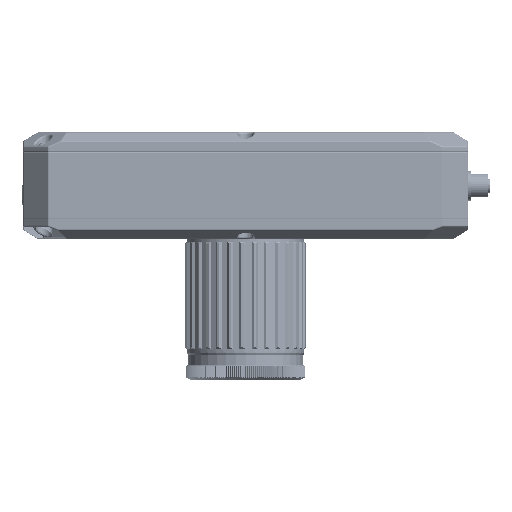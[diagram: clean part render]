
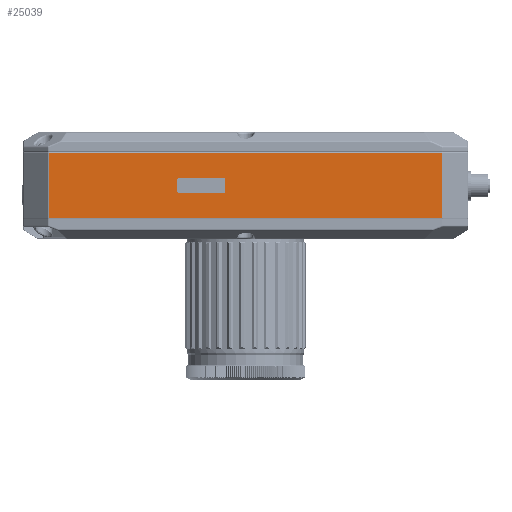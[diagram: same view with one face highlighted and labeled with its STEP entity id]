
A CAD part, front view. The second image highlights one B-rep face of the part: STEP entity #25039.
In plain terms, the highlighted planar face has unit normal (0, -1, 0).
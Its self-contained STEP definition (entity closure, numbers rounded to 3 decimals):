
#10063=DIRECTION('',(0.,0.,-1.));
#10064=VECTOR('',#10063,6.3);
#10065=CARTESIAN_POINT('',(-38.3,-71.,3.15));
#10066=LINE('',#10065,#10064);
#10070=DIRECTION('',(1.,0.,0.));
#10071=VECTOR('',#10070,25.);
#10072=CARTESIAN_POINT('',(-37.3,-71.,-4.15));
#10073=LINE('',#10072,#10071);
#10077=DIRECTION('',(0.,0.,1.));
#10078=VECTOR('',#10077,6.3);
#10079=CARTESIAN_POINT('',(-11.3,-71.,-3.15));
#10080=LINE('',#10079,#10078);
#10084=DIRECTION('',(-1.,0.,0.));
#10085=VECTOR('',#10084,25.);
#10086=CARTESIAN_POINT('',(-12.3,-71.,4.15));
#10087=LINE('',#10086,#10085);
#10091=DIRECTION('',(-1.,0.,0.));
#10092=VECTOR('',#10091,220.772);
#10093=CARTESIAN_POINT('',(110.386,-71.,-18.4));
#10094=LINE('',#10093,#10092);
#10098=DIRECTION('',(0.,0.,-1.));
#10099=VECTOR('',#10098,36.8);
#10100=CARTESIAN_POINT('',(-110.386,-71.,18.4));
#10101=LINE('',#10100,#10099);
#10105=DIRECTION('',(1.,0.,0.));
#10106=VECTOR('',#10105,220.772);
#10107=CARTESIAN_POINT('',(-110.386,-71.,18.4));
#10108=LINE('',#10107,#10106);
#10112=DIRECTION('',(0.,0.,1.));
#10113=VECTOR('',#10112,36.8);
#10114=CARTESIAN_POINT('',(110.386,-71.,-18.4));
#10115=LINE('',#10114,#10113);
#10133=CARTESIAN_POINT('',(-37.3,-71.,3.15));
#10134=DIRECTION('',(0.,1.,0.));
#10135=DIRECTION('',(-1.,0.,0.));
#10136=AXIS2_PLACEMENT_3D('',#10133,#10134,#10135);
#10215=CARTESIAN_POINT('',(-12.3,-71.,3.15));
#10216=DIRECTION('',(0.,1.,0.));
#10217=DIRECTION('',(0.,0.,1.));
#10218=AXIS2_PLACEMENT_3D('',#10215,#10216,#10217);
#10237=CARTESIAN_POINT('',(-12.3,-71.,-3.15));
#10238=DIRECTION('',(0.,1.,0.));
#10239=DIRECTION('',(1.,0.,0.));
#10240=AXIS2_PLACEMENT_3D('',#10237,#10238,#10239);
#10259=CARTESIAN_POINT('',(-37.3,-71.,-3.15));
#10260=DIRECTION('',(0.,1.,0.));
#10261=DIRECTION('',(0.,0.,-1.));
#10262=AXIS2_PLACEMENT_3D('',#10259,#10260,#10261);
#14508=CARTESIAN_POINT('',(-38.3,-71.,3.15));
#14509=VERTEX_POINT('',#14508);
#14510=CARTESIAN_POINT('',(-37.3,-71.,4.15));
#14511=VERTEX_POINT('',#14510);
#14516=CARTESIAN_POINT('',(-37.3,-71.,-4.15));
#14517=VERTEX_POINT('',#14516);
#14518=CARTESIAN_POINT('',(-38.3,-71.,-3.15));
#14519=VERTEX_POINT('',#14518);
#14524=CARTESIAN_POINT('',(-12.3,-71.,4.15));
#14525=VERTEX_POINT('',#14524);
#14526=CARTESIAN_POINT('',(-11.3,-71.,3.15));
#14527=VERTEX_POINT('',#14526);
#14532=CARTESIAN_POINT('',(-11.3,-71.,-3.15));
#14533=VERTEX_POINT('',#14532);
#14534=CARTESIAN_POINT('',(-12.3,-71.,-4.15));
#14535=VERTEX_POINT('',#14534);
#16362=CARTESIAN_POINT('',(110.386,-71.,-18.4));
#16363=VERTEX_POINT('',#16362);
#16366=CARTESIAN_POINT('',(-110.386,-71.,-18.4));
#16367=VERTEX_POINT('',#16366);
#16386=CARTESIAN_POINT('',(-110.386,-71.,18.4));
#16387=VERTEX_POINT('',#16386);
#16390=CARTESIAN_POINT('',(110.386,-71.,18.4));
#16391=VERTEX_POINT('',#16390);
#25008=CARTESIAN_POINT('',(-124.8,-71.,-18.9));
#25009=DIRECTION('',(0.,-1.,0.));
#25010=DIRECTION('',(1.,0.,0.));
#25011=AXIS2_PLACEMENT_3D('',#25008,#25009,#25010);
#25012=PLANE('',#25011);
#25013=ORIENTED_EDGE('',*,*,#18606,.T.);
#25015=ORIENTED_EDGE('',*,*,#25014,.F.);
#25017=ORIENTED_EDGE('',*,*,#25016,.T.);
#25018=ORIENTED_EDGE('',*,*,#25000,.F.);
#25019=EDGE_LOOP('',(#25013,#25015,#25017,#25018));
#25020=FACE_OUTER_BOUND('',#25019,.F.);
#25022=ORIENTED_EDGE('',*,*,#25021,.T.);
#25024=ORIENTED_EDGE('',*,*,#25023,.F.);
#25026=ORIENTED_EDGE('',*,*,#25025,.T.);
#25028=ORIENTED_EDGE('',*,*,#25027,.F.);
#25030=ORIENTED_EDGE('',*,*,#25029,.T.);
#25032=ORIENTED_EDGE('',*,*,#25031,.F.);
#25034=ORIENTED_EDGE('',*,*,#25033,.T.);
#25036=ORIENTED_EDGE('',*,*,#25035,.F.);
#25037=EDGE_LOOP('',(#25022,#25024,#25026,#25028,#25030,#25032,#25034,#25036));
#25038=FACE_BOUND('',#25037,.F.);
#10137=CIRCLE('',#10136,1.);
#10219=CIRCLE('',#10218,1.);
#10241=CIRCLE('',#10240,1.);
#10263=CIRCLE('',#10262,1.);
#18606=EDGE_CURVE('',#16363,#16367,#10094,.T.);
#25000=EDGE_CURVE('',#16363,#16391,#10115,.T.);
#25014=EDGE_CURVE('',#16387,#16367,#10101,.T.);
#25016=EDGE_CURVE('',#16387,#16391,#10108,.T.);
#25021=EDGE_CURVE('',#14509,#14519,#10066,.T.);
#25023=EDGE_CURVE('',#14517,#14519,#10263,.T.);
#25025=EDGE_CURVE('',#14517,#14535,#10073,.T.);
#25027=EDGE_CURVE('',#14533,#14535,#10241,.T.);
#25029=EDGE_CURVE('',#14533,#14527,#10080,.T.);
#25031=EDGE_CURVE('',#14525,#14527,#10219,.T.);
#25033=EDGE_CURVE('',#14525,#14511,#10087,.T.);
#25035=EDGE_CURVE('',#14509,#14511,#10137,.T.);
#25039=ADVANCED_FACE('',(#25020,#25038),#25012,.T.);
